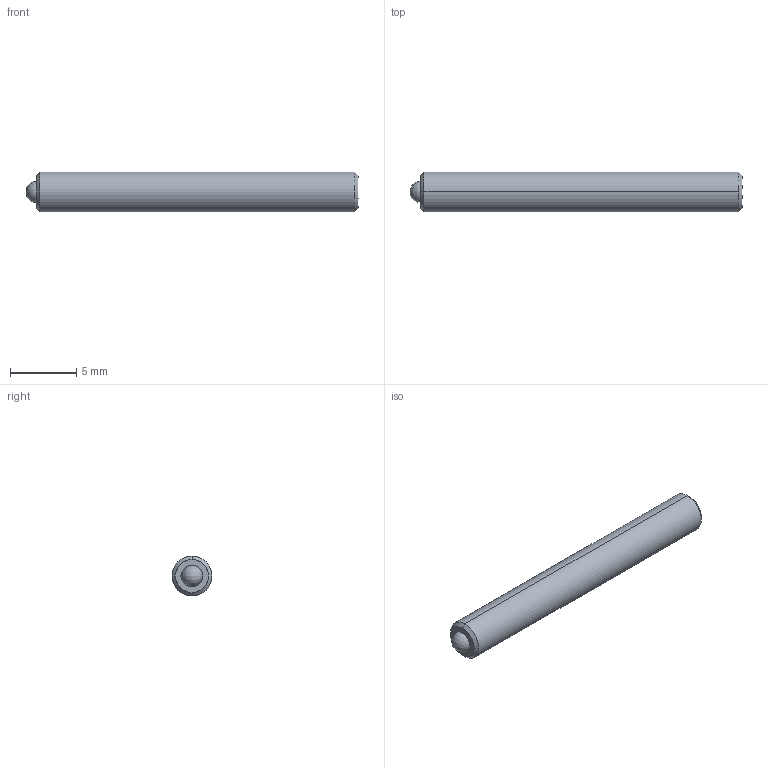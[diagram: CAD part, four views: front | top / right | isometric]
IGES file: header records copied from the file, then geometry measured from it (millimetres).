
Start section: SolidWorks IGES file using analytic representation for surfaces
Global section: file name: C:\Users\workpc\Desktop\KMA Solidworks\TS3-20 Series\TS3-20 High Vacuum\TS3-20 High Vacuum 3D Models\TS3-20-25-HV.IGS; native system: SolidWorks 2013; preprocessor: SolidWorks 2013; author: workpc; date: 130510.121904; units: millimetre
Bounding box: 25 x 3 x 3 mm (x, y, z)
Surface area: 261.8 mm2 (no closed solid volume)
Topology: 0 solids, 0 shells, 24 faces, 208 edges, 204 vertices
Faces by surface type: revolution 14, bspline 10
